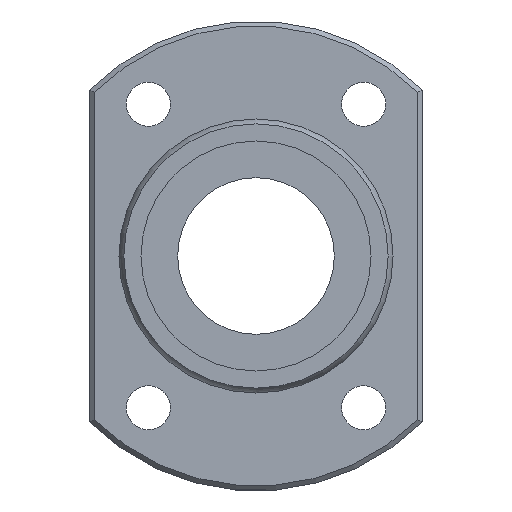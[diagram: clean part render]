
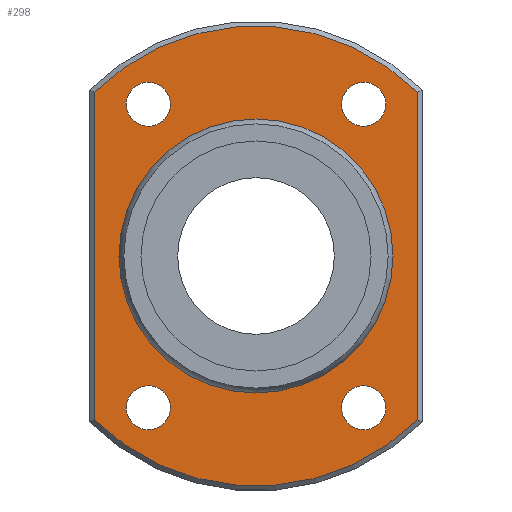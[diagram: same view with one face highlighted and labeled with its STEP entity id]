
A CAD part, left-side view. The second image highlights one B-rep face of the part: STEP entity #298.
In plain terms, the highlighted planar face has unit normal (-1, 0, 0).
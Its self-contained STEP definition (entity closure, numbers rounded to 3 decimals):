
#59=CARTESIAN_POINT('',(11.,16.5,-16.733));
#60=VERTEX_POINT('',#59);
#68=CARTESIAN_POINT('',(11.,16.5,16.733));
#69=VERTEX_POINT('',#68);
#70=CARTESIAN_POINT('',(11.,16.5,-16.733));
#71=DIRECTION('',(0.0,0.0,1.0));
#72=VECTOR('',#71,33.466);
#73=LINE('',#70,#72);
#74=EDGE_CURVE('',#60,#69,#73,.T.);
#101=CARTESIAN_POINT('',(11.,-16.5,16.733));
#102=VERTEX_POINT('',#101);
#103=CARTESIAN_POINT('',(11.,0.0,0.0));
#104=DIRECTION('',(1.0,0.0,0.0));
#105=DIRECTION('',(0.0,0.0,1.0));
#106=AXIS2_PLACEMENT_3D('',#103,#104,#105);
#107=CIRCLE('',#106,23.5);
#108=EDGE_CURVE('',#69,#102,#107,.T.);
#134=CARTESIAN_POINT('',(11.,-16.5,-16.733));
#135=VERTEX_POINT('',#134);
#136=CARTESIAN_POINT('',(11.,-16.5,16.733));
#137=DIRECTION('',(0.0,0.0,-1.0));
#138=VECTOR('',#137,33.466);
#139=LINE('',#136,#138);
#140=EDGE_CURVE('',#102,#135,#139,.T.);
#165=CARTESIAN_POINT('',(11.,0.0,0.0));
#166=DIRECTION('',(1.0,0.0,0.0));
#167=DIRECTION('',(0.0,0.0,-1.0));
#168=AXIS2_PLACEMENT_3D('',#165,#166,#167);
#169=CIRCLE('',#168,23.5);
#170=EDGE_CURVE('',#135,#60,#169,.T.);
#232=CARTESIAN_POINT('',(11.,0.0,18.887));
#233=DIRECTION('',(-1.0,0.0,0.0));
#234=DIRECTION('',(0.0,0.0,1.0));
#235=AXIS2_PLACEMENT_3D('',#232,#233,#234);
#236=PLANE('',#235);
#237=ORIENTED_EDGE('',*,*,#74,.F.);
#238=ORIENTED_EDGE('',*,*,#170,.F.);
#239=ORIENTED_EDGE('',*,*,#140,.F.);
#240=ORIENTED_EDGE('',*,*,#108,.F.);
#241=EDGE_LOOP('',(#237,#238,#239,#240));
#242=FACE_OUTER_BOUND('',#241,.T.);
#243=CARTESIAN_POINT('',(11.,0.0,13.773));
#244=VERTEX_POINT('',#243);
#245=CARTESIAN_POINT('',(11.,0.0,0.0));
#246=DIRECTION('',(-1.0,0.0,0.0));
#247=DIRECTION('',(0.0,0.0,1.0));
#248=AXIS2_PLACEMENT_3D('',#245,#246,#247);
#249=CIRCLE('',#248,13.773);
#250=EDGE_CURVE('',#244,#244,#249,.T.);
#251=ORIENTED_EDGE('',*,*,#250,.F.);
#252=EDGE_LOOP('',(#251));
#253=FACE_BOUND('',#252,.T.);
#254=CARTESIAN_POINT('',(11.,-13.25,-15.5));
#255=VERTEX_POINT('',#254);
#256=CARTESIAN_POINT('',(11.,-11.,-15.5));
#257=DIRECTION('',(1.0,0.0,0.0));
#258=DIRECTION('',(0.0,1.0,0.0));
#259=AXIS2_PLACEMENT_3D('',#256,#257,#258);
#260=CIRCLE('',#259,2.25);
#261=EDGE_CURVE('',#255,#255,#260,.T.);
#262=ORIENTED_EDGE('',*,*,#261,.T.);
#263=EDGE_LOOP('',(#262));
#264=FACE_BOUND('',#263,.T.);
#265=CARTESIAN_POINT('',(11.,-13.25,15.5));
#266=VERTEX_POINT('',#265);
#267=CARTESIAN_POINT('',(11.,-11.,15.5));
#268=DIRECTION('',(1.0,0.0,0.0));
#269=DIRECTION('',(0.0,1.0,0.0));
#270=AXIS2_PLACEMENT_3D('',#267,#268,#269);
#271=CIRCLE('',#270,2.25);
#272=EDGE_CURVE('',#266,#266,#271,.T.);
#273=ORIENTED_EDGE('',*,*,#272,.T.);
#274=EDGE_LOOP('',(#273));
#275=FACE_BOUND('',#274,.T.);
#276=CARTESIAN_POINT('',(11.,8.75,-15.5));
#277=VERTEX_POINT('',#276);
#278=CARTESIAN_POINT('',(11.,11.,-15.5));
#279=DIRECTION('',(1.0,0.0,0.0));
#280=DIRECTION('',(0.0,1.0,0.0));
#281=AXIS2_PLACEMENT_3D('',#278,#279,#280);
#282=CIRCLE('',#281,2.25);
#283=EDGE_CURVE('',#277,#277,#282,.T.);
#284=ORIENTED_EDGE('',*,*,#283,.T.);
#285=EDGE_LOOP('',(#284));
#286=FACE_BOUND('',#285,.T.);
#287=CARTESIAN_POINT('',(11.,8.75,15.5));
#288=VERTEX_POINT('',#287);
#289=CARTESIAN_POINT('',(11.,11.,15.5));
#290=DIRECTION('',(1.0,0.0,0.0));
#291=DIRECTION('',(0.0,1.0,0.0));
#292=AXIS2_PLACEMENT_3D('',#289,#290,#291);
#293=CIRCLE('',#292,2.25);
#294=EDGE_CURVE('',#288,#288,#293,.T.);
#295=ORIENTED_EDGE('',*,*,#294,.T.);
#296=EDGE_LOOP('',(#295));
#297=FACE_BOUND('',#296,.T.);
#298=ADVANCED_FACE('',(#242,#253,#264,#275,#286,#297),#236,.T.);
